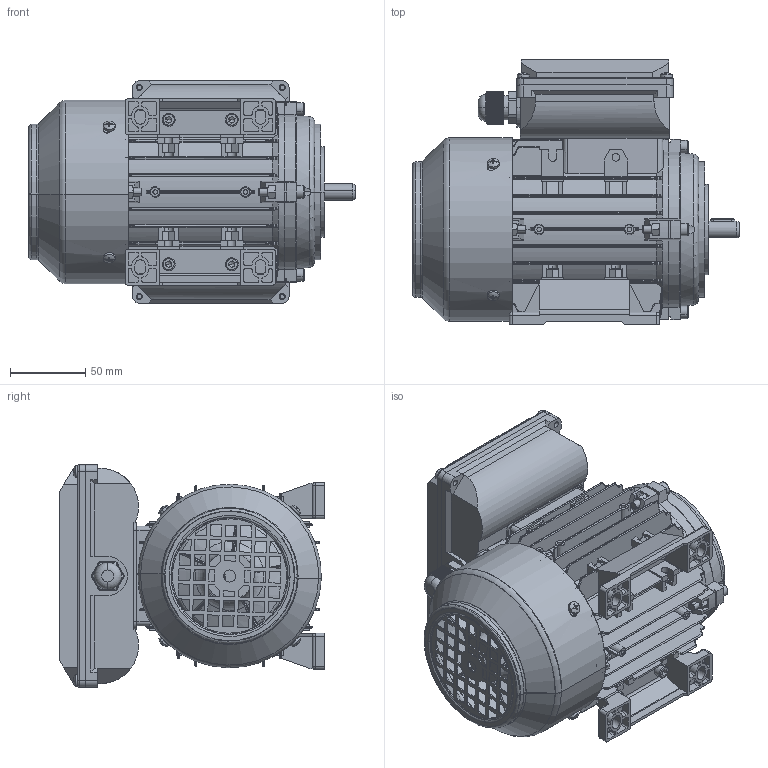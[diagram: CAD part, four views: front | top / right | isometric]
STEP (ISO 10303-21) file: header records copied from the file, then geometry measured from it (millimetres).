
FILE_DESCRIPTION (( 'STEP AP203' ), '1' );
FILE_NAME ('ML2 63 B34.STEP', '2024-01-20T01:42:54', ( '' ), ( '' ), 'SwSTEP 2.0', 'SolidWorks 2016', '' );
FILE_SCHEMA (( 'CONFIG_CONTROL_DESIGN' ));
Length unit declared in the file: millimetre
Products named in the file (17): ML63-71諉盄碟裔(臏); 堤盄蹟杶M16; TAN63 蛌粣; TAN63 B14裔; plain parallel keys_GB_CONNECTING_PIECE_KEYS_CSK 4X16; hexagon nuts grade c gb_GB_FASTENER_NUT_SNC1 M5-N; ML63-71臏諉盄碟軞傖.SLDPRT; cross recessed thread forming screws gb_GB_CROSS_SCREWS_TYPE138 M4X10-N; hexagon socket head cap screws gb_GB_FASTENER_SCREWS_HSHCS M5X16-N; TA63瑞欶; TAN63 綴裔; ML63-71諉盄碟釱(臏); hexagon socket head cap screws gb_GB_FASTENER_SCREWS_HSHCS M5X25-N; TAN63 儂褲; ML2 63 B34; TAN63 菁褐; MS63 瑞珔
Assembly tree (45 placements, depth 3):
  ML2 63 B34
    TAN63 儂褲
    TAN63 綴裔
    MS63 瑞珔
    TA63瑞欶
    TAN63 蛌粣
    cross recessed thread forming screws gb_GB_CROSS_SCREWS_TYPE138 M4X10-N  x4
    plain parallel keys_GB_CONNECTING_PIECE_KEYS_CSK 4X16
    hexagon nuts grade c gb_GB_FASTENER_NUT_SNC1 M5-N  x12
    hexagon socket head cap screws gb_GB_FASTENER_SCREWS_HSHCS M5X25-N  x8
    TAN63 菁褐  x2
    hexagon socket head cap screws gb_GB_FASTENER_SCREWS_HSHCS M5X16-N  x4
    TAN63 B14裔
    ML63-71臏諉盄碟軞傖.SLDPRT
      cross recessed thread forming screws gb_GB_CROSS_SCREWS_TYPE138 M4X10-N  x4
      堤盄蹟杶M16
      ML63-71諉盄碟裔(臏)
      ML63-71諉盄碟釱(臏)
Bounding box: 217 x 176 x 148 mm (x, y, z)
Volume: 602783.8 mm3; surface area: 452023.7 mm2
Topology: 44 solids, 44 shells, 4153 faces, 10883 edges, 6874 vertices
Faces by surface type: plane 2031, cylinder 1068, bspline 494, cone 329, torus 195, sphere 36
Entity records: 123065 total; most frequent: CARTESIAN_POINT 39935, ORIENTED_EDGE 18120, DIRECTION 15218, EDGE_CURVE 9060, VERTEX_POINT 5766, AXIS2_PLACEMENT_3D 5306, LINE 4606, VECTOR 4606
